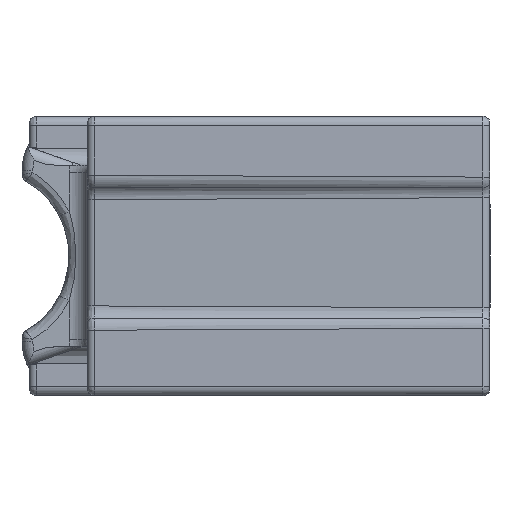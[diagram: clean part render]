
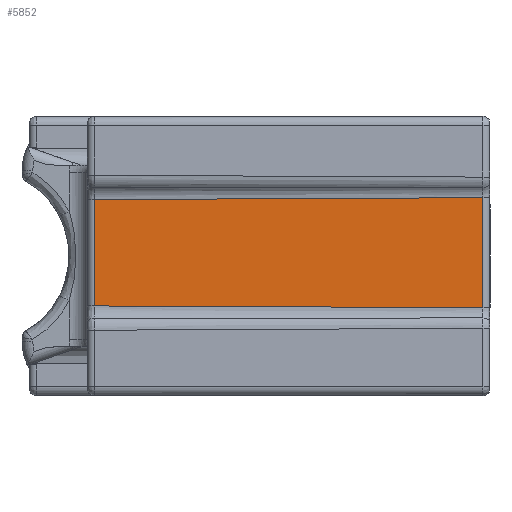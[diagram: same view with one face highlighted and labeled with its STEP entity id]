
A CAD part, left-side view. The second image highlights one B-rep face of the part: STEP entity #5852.
In plain terms, the highlighted planar face has unit normal (-1, 0, 0).
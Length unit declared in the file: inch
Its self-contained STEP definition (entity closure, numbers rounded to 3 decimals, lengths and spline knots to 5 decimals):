
#89=PLANE('',#6440);
#466=FACE_OUTER_BOUND('',#844,.T.);
#844=EDGE_LOOP('',(#4754,#4755,#4756,#4757));
#1121=B_SPLINE_CURVE_WITH_KNOTS('',3,(#12720,#12721,#12722,#12723),
 .UNSPECIFIED.,.F.,.F.,(4,4),(0.051,2.76883),
 .UNSPECIFIED.);
#1122=B_SPLINE_CURVE_WITH_KNOTS('',3,(#12725,#12726,#12727,#12728),
 .UNSPECIFIED.,.F.,.F.,(4,4),(0.1651,2.88293),
 .UNSPECIFIED.);
#1310=LINE('',#11809,#1649);
#1362=LINE('',#12491,#1701);
#1649=VECTOR('',#7435,0.3937);
#1701=VECTOR('',#7677,0.3937);
#2551=VERTEX_POINT('',#11795);
#2553=VERTEX_POINT('',#11807);
#2624=VERTEX_POINT('',#12477);
#2626=VERTEX_POINT('',#12489);
#3243=EDGE_CURVE('',#2553,#2551,#1310,.T.);
#3368=EDGE_CURVE('',#2626,#2624,#1362,.T.);
#3405=EDGE_CURVE('',#2624,#2553,#1121,.T.);
#3406=EDGE_CURVE('',#2551,#2626,#1122,.T.);
#4754=ORIENTED_EDGE('',*,*,#3243,.F.);
#4755=ORIENTED_EDGE('',*,*,#3405,.F.);
#4756=ORIENTED_EDGE('',*,*,#3368,.F.);
#4757=ORIENTED_EDGE('',*,*,#3406,.F.);
#5852=ADVANCED_FACE('',(#466),#89,.F.);
#6440=AXIS2_PLACEMENT_3D('',#12724,#7744,#7745);
#7435=DIRECTION('',(0.,0.,-1.));
#7677=DIRECTION('',(0.,0.,1.));
#7744=DIRECTION('center_axis',(1.,0.,0.));
#7745=DIRECTION('ref_axis',(0.,0.,-1.));
#11795=CARTESIAN_POINT('',(-1.093,-1.09,-0.14246));
#11807=CARTESIAN_POINT('',(-1.093,-1.09,0.16075));
#11809=CARTESIAN_POINT('',(-1.093,-1.09,-0.09));
#12477=CARTESIAN_POINT('',(-1.093,-0.02,0.15544));
#12489=CARTESIAN_POINT('',(-1.093,-0.02,-0.13764));
#12491=CARTESIAN_POINT('',(-1.093,-0.02,-0.09));
#12720=CARTESIAN_POINT('Ctrl Pts',(-1.093,-0.02,0.15544));
#12721=CARTESIAN_POINT('Ctrl Pts',(-1.093,-0.37667,0.15718));
#12722=CARTESIAN_POINT('Ctrl Pts',(-1.093,-0.73333,0.15892));
#12723=CARTESIAN_POINT('Ctrl Pts',(-1.093,-1.09,0.16075));
#12724=CARTESIAN_POINT('Origin',(-1.093,0.,-0.18));
#12725=CARTESIAN_POINT('Ctrl Pts',(-1.093,-1.09,-0.14246));
#12726=CARTESIAN_POINT('Ctrl Pts',(-1.093,-0.73334,-0.14034));
#12727=CARTESIAN_POINT('Ctrl Pts',(-1.093,-0.37667,-0.13879));
#12728=CARTESIAN_POINT('Ctrl Pts',(-1.093,-0.02,-0.13764));
